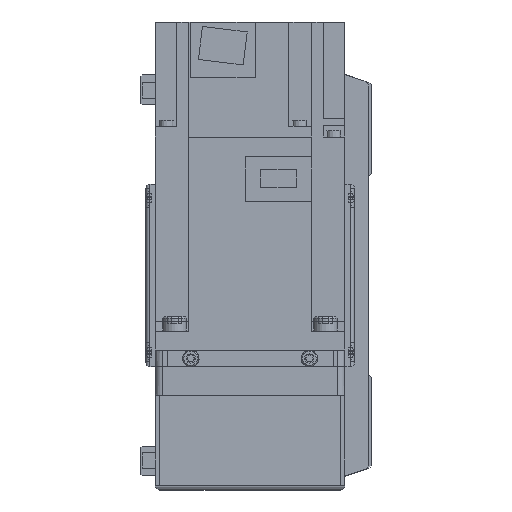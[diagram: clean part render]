
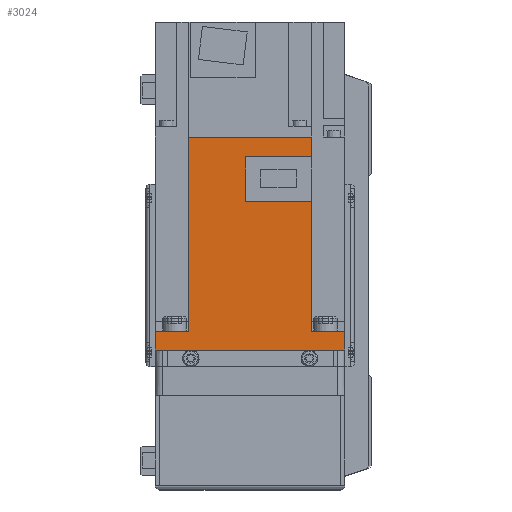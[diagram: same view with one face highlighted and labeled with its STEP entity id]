
A CAD part, left-side view. The second image highlights one B-rep face of the part: STEP entity #3024.
In plain terms, the highlighted planar face has unit normal (-1, 0, 0) as drawn and (1, 0, 0) by its records, which use the part's own axes.
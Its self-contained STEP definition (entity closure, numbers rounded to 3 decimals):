
#3024 = ADVANCED_FACE( '', ( #6543 ), #6544, .F. );
#6543 = FACE_OUTER_BOUND( '', #10409, .T. );
#6544 = PLANE( '', #10410 );
#10409 = EDGE_LOOP( '', ( #18930, #18931, #18932, #18933, #18934, #18935, #18936, #18937, #18938, #18939, #18940, #18941 ) );
#10410 = AXIS2_PLACEMENT_3D( '', #18942, #18943, #18944 );
#18930 = ORIENTED_EDGE( '', *, *, #24928, .F. );
#18931 = ORIENTED_EDGE( '', *, *, #24929, .F. );
#18932 = ORIENTED_EDGE( '', *, *, #24930, .F. );
#18933 = ORIENTED_EDGE( '', *, *, #24931, .T. );
#18934 = ORIENTED_EDGE( '', *, *, #22600, .F. );
#18935 = ORIENTED_EDGE( '', *, *, #24932, .T. );
#18936 = ORIENTED_EDGE( '', *, *, #24882, .T. );
#18937 = ORIENTED_EDGE( '', *, *, #24299, .F. );
#18938 = ORIENTED_EDGE( '', *, *, #23061, .F. );
#18939 = ORIENTED_EDGE( '', *, *, #24933, .F. );
#18940 = ORIENTED_EDGE( '', *, *, #22989, .F. );
#18941 = ORIENTED_EDGE( '', *, *, #23306, .F. );
#18942 = CARTESIAN_POINT( '', ( 40., 89.8, 40. ) );
#18943 = DIRECTION( '', ( -1., 0., 0. ) );
#18944 = DIRECTION( '', ( 0., 0., 1. ) );
#22600 = EDGE_CURVE( '', #27341, #27343, #27344, .T. );
#22989 = EDGE_CURVE( '', #27973, #26750, #27974, .T. );
#23061 = EDGE_CURVE( '', #28087, #28088, #28089, .T. );
#23306 = EDGE_CURVE( '', #28469, #27973, #28470, .T. );
#24299 = EDGE_CURVE( '', #28088, #29912, #29913, .T. );
#24882 = EDGE_CURVE( '', #30659, #29912, #30660, .T. );
#24928 = EDGE_CURVE( '', #26749, #28469, #30711, .T. );
#24929 = EDGE_CURVE( '', #30712, #26749, #30713, .T. );
#24930 = EDGE_CURVE( '', #30714, #30712, #30715, .T. );
#24931 = EDGE_CURVE( '', #30714, #27343, #30716, .T. );
#24932 = EDGE_CURVE( '', #27341, #30659, #30717, .T. );
#24933 = EDGE_CURVE( '', #26750, #28087, #30718, .T. );
#26749 = VERTEX_POINT( '', #33233 );
#26750 = VERTEX_POINT( '', #33234 );
#27341 = VERTEX_POINT( '', #34466 );
#27343 = VERTEX_POINT( '', #34469 );
#27344 = LINE( '', #34470, #34471 );
#27973 = VERTEX_POINT( '', #35430 );
#27974 = LINE( '', #35431, #35432 );
#28087 = VERTEX_POINT( '', #35609 );
#28088 = VERTEX_POINT( '', #35610 );
#28089 = LINE( '', #35611, #35612 );
#28469 = VERTEX_POINT( '', #36244 );
#28470 = LINE( '', #36245, #36246 );
#29912 = VERTEX_POINT( '', #38563 );
#29913 = LINE( '', #38564, #38565 );
#30659 = VERTEX_POINT( '', #39681 );
#30660 = LINE( '', #39682, #39683 );
#30711 = LINE( '', #39747, #39748 );
#30712 = VERTEX_POINT( '', #39749 );
#30713 = LINE( '', #39750, #39751 );
#30714 = VERTEX_POINT( '', #39752 );
#30715 = LINE( '', #39753, #39754 );
#30716 = LINE( '', #39755, #39756 );
#30717 = LINE( '', #39757, #39758 );
#30718 = LINE( '', #39759, #39760 );
#33233 = CARTESIAN_POINT( '', ( 40., 81.4, -25.95 ) );
#33234 = CARTESIAN_POINT( '', ( 40., 62.8, -25.95 ) );
#34466 = CARTESIAN_POINT( '', ( 40., 8., 40. ) );
#34469 = CARTESIAN_POINT( '', ( 40., 8., 25.95 ) );
#34470 = CARTESIAN_POINT( '', ( 40., 8., 40. ) );
#34471 = VECTOR( '', #41983, 1000. );
#35430 = CARTESIAN_POINT( '', ( 40., 62.8, 1.8 ) );
#35431 = CARTESIAN_POINT( '', ( 40., 62.8, 1.8 ) );
#35432 = VECTOR( '', #42522, 1000. );
#35609 = CARTESIAN_POINT( '', ( 40., 8., -25.95 ) );
#35610 = CARTESIAN_POINT( '', ( 40., 8., -40. ) );
#35611 = CARTESIAN_POINT( '', ( 40., 8., 40. ) );
#35612 = VECTOR( '', #42601, 1000. );
#36244 = CARTESIAN_POINT( '', ( 40., 81.4, 1.8 ) );
#36245 = CARTESIAN_POINT( '', ( 40., 81.4, 1.8 ) );
#36246 = VECTOR( '', #42889, 1000. );
#38563 = CARTESIAN_POINT( '', ( 40., 0., -40. ) );
#38564 = CARTESIAN_POINT( '', ( 40., 89.8, -40. ) );
#38565 = VECTOR( '', #44078, 1000. );
#39681 = CARTESIAN_POINT( '', ( 40., 0., 40. ) );
#39682 = CARTESIAN_POINT( '', ( 40., 0., 40. ) );
#39683 = VECTOR( '', #44657, 1000. );
#39747 = CARTESIAN_POINT( '', ( 40., 81.4, -26. ) );
#39748 = VECTOR( '', #44701, 1000. );
#39749 = CARTESIAN_POINT( '', ( 40., 89.8, -25.95 ) );
#39750 = CARTESIAN_POINT( '', ( 40., 158., -25.95 ) );
#39751 = VECTOR( '', #44702, 1000. );
#39752 = CARTESIAN_POINT( '', ( 40., 89.8, 25.95 ) );
#39753 = CARTESIAN_POINT( '', ( 40., 89.8, 40. ) );
#39754 = VECTOR( '', #44703, 1000. );
#39755 = CARTESIAN_POINT( '', ( 40., 158., 25.95 ) );
#39756 = VECTOR( '', #44704, 1000. );
#39757 = CARTESIAN_POINT( '', ( 40., 89.8, 40. ) );
#39758 = VECTOR( '', #44705, 1000. );
#39759 = CARTESIAN_POINT( '', ( 40., 158., -25.95 ) );
#39760 = VECTOR( '', #44706, 1000. );
#41983 = DIRECTION( '', ( 0., 0., -1. ) );
#42522 = DIRECTION( '', ( 0., 0., -1. ) );
#42601 = DIRECTION( '', ( 0., 0., -1. ) );
#42889 = DIRECTION( '', ( 0., -1., 0. ) );
#44078 = DIRECTION( '', ( 0., -1., 0. ) );
#44657 = DIRECTION( '', ( 0., 0., -1. ) );
#44701 = DIRECTION( '', ( 0., 0., 1. ) );
#44702 = DIRECTION( '', ( 0., -1., 0. ) );
#44703 = DIRECTION( '', ( 0., 0., -1. ) );
#44704 = DIRECTION( '', ( 0., -1., 0. ) );
#44705 = DIRECTION( '', ( 0., -1., 0. ) );
#44706 = DIRECTION( '', ( 0., -1., 0. ) );
